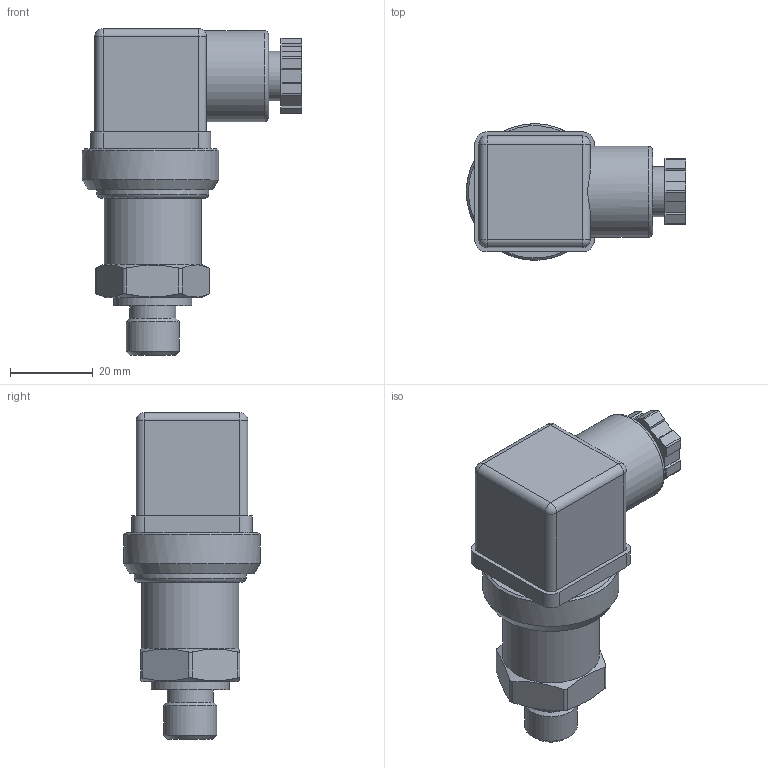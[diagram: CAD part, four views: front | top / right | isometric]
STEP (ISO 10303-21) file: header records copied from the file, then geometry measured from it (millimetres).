
FILE_DESCRIPTION(/* description */ (''),/* implementation_level */ '2;1');
FILE_NAME(/* name */ 'G14M-HSM.stp',/* time_stamp */ '2026-05-13T16:23:26+08:00',/* author */ (''),/* organization */ (''),/* preprocessor_version */ 'ST-DEVELOPER v16',/* originating_system */ 'SIEMENS PLM Software NX 10.0',/* authorisation */ '');
FILE_SCHEMA (('AP203_CONFIGURATION_CONTROLLED_3D_DESIGN_OF_MECHANICAL_PARTS_AND_ASSEMBLIES_MIM_LF { 1 0 10303 403 2 1 2}'));
Length unit declared in the file: millimetre
Products named in the file (1): PRES3B3C478Byazz
Bounding box: 53 x 33 x 79 mm (x, y, z)
Volume: 50516.8 mm3; surface area: 10516.8 mm2
Topology: 1 solids, 1 shells, 129 faces, 345 edges, 219 vertices
Faces by surface type: plane 66, cylinder 42, bspline 8, cone 7, sphere 4, torus 2
Full cylindrical faces by diameter (mm): 1 x1, 3 x1, 11.2 x1, 12 x1, 12.8 x1, 16.6 x1, 18.9 x1, 22 x1, 23.5 x1, 27 x1, 33 x1
Entity records: 6559 total; most frequent: CARTESIAN_POINT 3522, ORIENTED_EDGE 626, DIRECTION 552, EDGE_CURVE 313, VERTEX_POINT 210, AXIS2_PLACEMENT_3D 197, LINE 158, VECTOR 158
